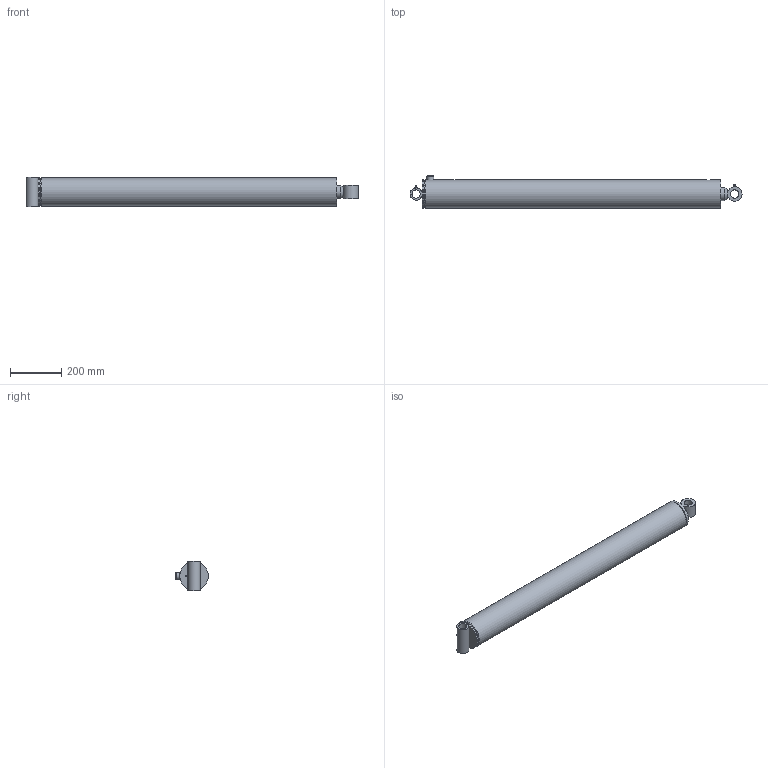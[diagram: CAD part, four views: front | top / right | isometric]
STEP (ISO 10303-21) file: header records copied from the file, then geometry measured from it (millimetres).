
FILE_DESCRIPTION((''),'2;1');
FILE_NAME('C:\Vault\Workspace\Vest\PMC-5640.stp','2010-02-01T08:53:34',('KneiflD'),(''),'Autodesk Inventor 2010','Autodesk Inventor 2010','');
FILE_SCHEMA(('AUTOMOTIVE_DESIGN { 1 0 10303 214 1 1 1 1 }'));
Length unit declared in the file: inch
Products named in the file (23): PMC-5640; 061900043; 051900065; 161900081V; 200014404V; 210600086V; 021100307; 011100877; 210600347V; 071900019; 081900451V; 220000212V; 240004008V; 240034342V; 240000342V; 240000026V; 240061342V; 240020009V; 230001400V; 200018003V; 270010002V; 270010020V; 250001329V
Assembly tree (25 placements, depth 3):
  PMC-5640
    061900043
      051900065
      161900081V
      200014404V
      210600086V
    021100307
      011100877
      210600347V
    071900019
    081900451V
    220000212V
    240004008V
    240034342V  x2
    240000342V  x2
    240000026V
    240061342V
    240020009V
    230001400V
    200018003V  x2
    270010002V
    270010020V
    250001329V
Bounding box: 1296.97 x 127 x 114.3 mm (x, y, z)
Volume: 5136461 mm3; surface area: 1184347.2 mm2
Topology: 23 solids, 23 shells, 258 faces, 527 edges, 319 vertices
Faces by surface type: plane 114, cylinder 61, cone 36, torus 24, bspline 21, sphere 2
Full cylindrical faces by diameter (mm): 1.524 x2, 3.175 x2, 6.074 x1, 8.839 x1, 9.08 x1, 12.7 x1, 23.813 x1, 28.575 x1, 31.699 x1, 31.826 x1, 32.258 x1, 32.385 x1, 34.315 x1, 47.625 x1, 50.8 x2, 50.876 x2, 51.752 x1, 54.61 x1, 57.15 x1, 58.725 x2, 59.373 x1, 60.325 x1, 60.452 x1, 63.5 x1, 80.95 x1, 91.592 x1, 92.151 x1, 92.71 x3, 92.964 x1, 95.25 x1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
Entity records: 7256 total; most frequent: CARTESIAN_POINT 2155, DIRECTION 1011, ORIENTED_EDGE 684, AXIS2_PLACEMENT_3D 460, EDGE_LOOP 408, EDGE_CURVE 342, VERTEX_POINT 276, FACE_OUTER_BOUND 236
